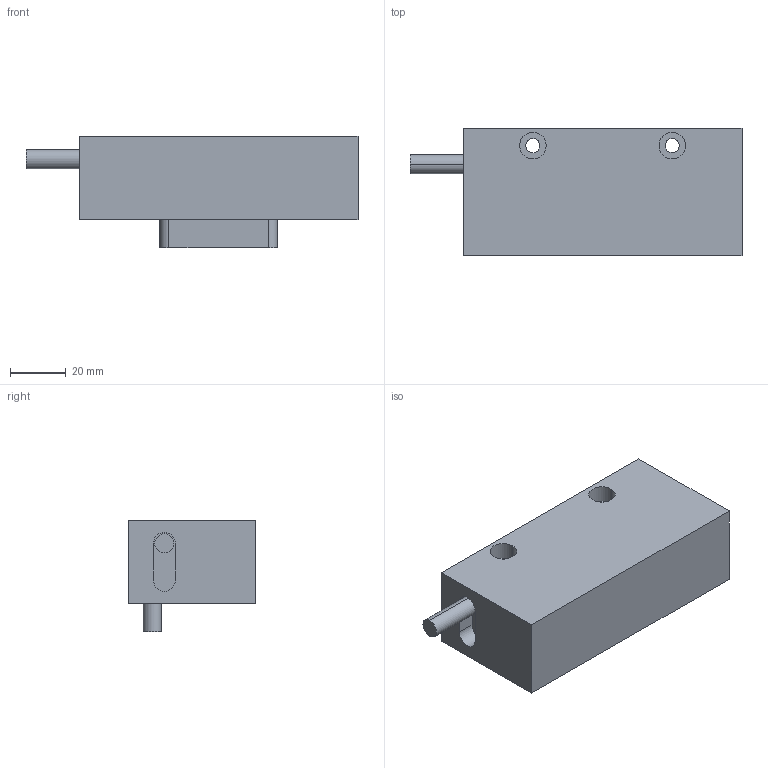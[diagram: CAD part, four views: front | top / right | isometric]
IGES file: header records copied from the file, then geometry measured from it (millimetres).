
Global section: file name: No Iges File Name specified; native system: AutoDesk Inventor R12.0; preprocessor: AutoDesk Inventor Iges Exporter R12.0; date: 20081121.155241; units: inch
Bounding box: 119.05 x 45.72 x 40.16 mm (x, y, z)
Volume: 136323.7 mm3; surface area: 22484.8 mm2
Topology: 1 solids, 1 shells, 61 faces, 146 edges, 84 vertices
Faces by surface type: bspline 42, plane 13, cylinder 4, revolution 2
